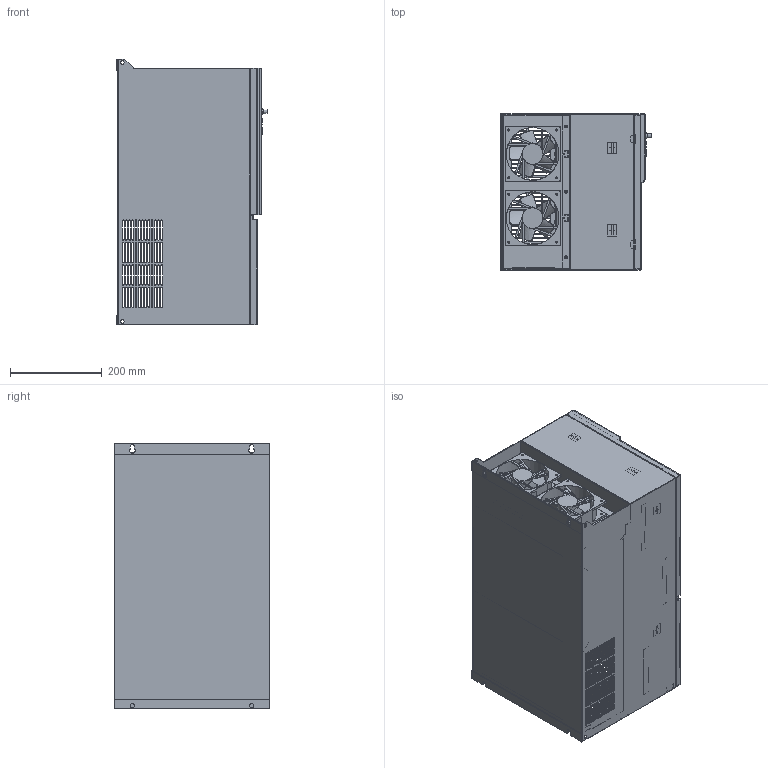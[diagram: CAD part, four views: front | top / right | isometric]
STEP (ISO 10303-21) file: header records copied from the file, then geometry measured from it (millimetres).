
FILE_DESCRIPTION(('STEP AP203'), '1');
FILE_NAME('Ïðåîáðàçîâàòåëü ÷àñòîòû _ MCI-G75_P90-4', '', ('UNSPECIFIED'), ('UNSPECIFIED'), 'C3D Converter', 'C3D Toolkit', '');
FILE_SCHEMA(('CONFIG_CONTROL_DESIGN'));
Length unit declared in the file: millimetre
Products named in the file (30): MCI-G75_P90-4; MCI-G75; MCI-MF-B; MCI-KP-B
Assembly tree (77 placements, depth 4):
  MCI-G75_P90-4
    MCI-G75
      MCI-G75
        MCI-G75
        MCI-G75  x2
      MCI-G75
        MCI-G75
        MCI-G75  x3
      MCI-G75
        MCI-G75
        MCI-G75  x14
      MCI-G75  x2
        MCI-G75
        MCI-G75
      MCI-G75  x2
        MCI-G75
        MCI-G75
      MCI-G75
      MCI-G75
      MCI-G75  x2
        MCI-G75
        MCI-G75
      MCI-G75
      MCI-G75  x7
      MCI-G75  x4
        MCI-G75
        MCI-G75
    MCI-G75
    MCI-G75
      MCI-G75
      MCI-G75  x2
    MCI-G75
    MCI-G75
      MCI-G75
      MCI-G75  x8
      MCI-G75  x2
    MCI-MF-B
    MCI-KP-B
Bounding box: 328.17 x 340 x 580 mm (x, y, z)
Volume: 2123796.3 mm3; surface area: 2670133.5 mm2
Topology: 76 solids, 82 shells, 3101 faces, 8170 edges, 5264 vertices
Faces by surface type: plane 1811, cylinder 1092, bspline 134, extrusion 48, torus 6, cone 6, revolution 2, sphere 2
Full cylindrical faces by diameter (mm): 1 x14, 1.7 x2, 2 x4, 2.7 x4, 4 x45, 4.5 x32, 5 x8, 5.4 x92, 5.5 x7, 7.9 x45, 8 x4, 12 x1, 22 x2, 45 x4, 56 x1, 92 x4, 115 x6
Entity records: 92204 total; most frequent: CARTESIAN_POINT 23208, ORIENTED_EDGE 13263, DIRECTION 12950, EDGE_CURVE 6633, VECTOR 4672, LINE 4624, VERTEX_POINT 4353, AXIS2_PLACEMENT_3D 4138
